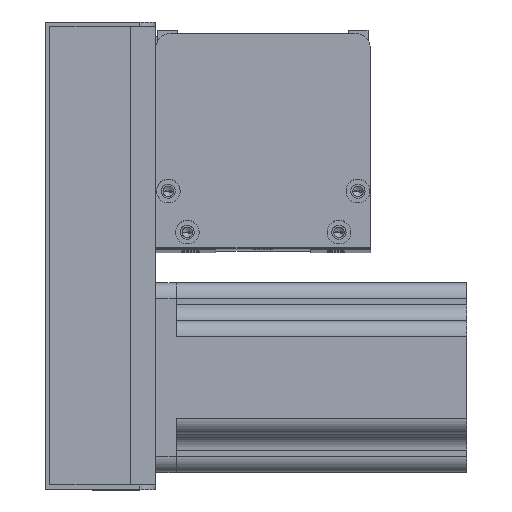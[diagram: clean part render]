
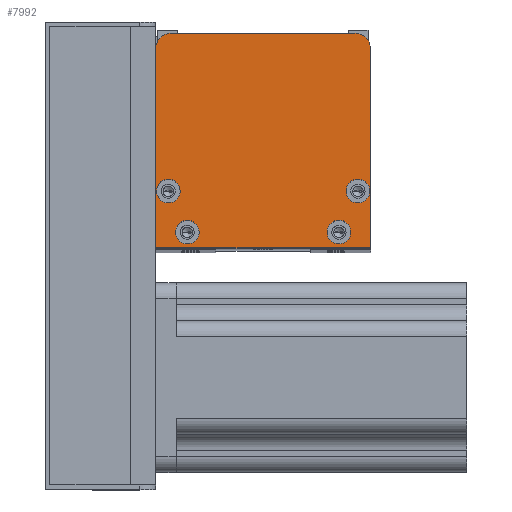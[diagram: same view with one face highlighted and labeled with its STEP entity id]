
A CAD part, top view. The second image highlights one B-rep face of the part: STEP entity #7992.
In plain terms, the highlighted planar face has unit normal (0, 0, 1) as drawn and (0, 0, -1) by its records, which use the part's own axes.
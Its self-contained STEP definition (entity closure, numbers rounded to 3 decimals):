
#486 = VERTEX_POINT ( 'NONE', #13079 ) ;
#631 = CARTESIAN_POINT ( 'NONE',  ( 68., 0., 0. ) ) ;
#656 = AXIS2_PLACEMENT_3D ( 'NONE', #26020, #2727, #13116 ) ;
#916 = CIRCLE ( 'NONE', #15659, 3.75 ) ;
#970 = CARTESIAN_POINT ( 'NONE',  ( 5., 68., 0. ) ) ;
#1076 = ORIENTED_EDGE ( 'NONE', *, *, #9248, .F. ) ;
#1168 = EDGE_CURVE ( 'NONE', #15034, #12187, #15639, .T. ) ;
#1586 = CARTESIAN_POINT ( 'NONE',  ( 67.75, 18., 0. ) ) ;
#1740 = AXIS2_PLACEMENT_3D ( 'NONE', #19308, #12850, #21339 ) ;
#2102 = ORIENTED_EDGE ( 'NONE', *, *, #14045, .F. ) ;
#2156 = DIRECTION ( 'NONE',  ( 1., 0., 0. ) ) ;
#2587 = CARTESIAN_POINT ( 'NONE',  ( 0., 0., 0. ) ) ;
#2604 = EDGE_CURVE ( 'NONE', #486, #8889, #27159, .T. ) ;
#2654 = CARTESIAN_POINT ( 'NONE',  ( 64., 18., 0. ) ) ;
#2727 = DIRECTION ( 'NONE',  ( 0., 0., -1. ) ) ;
#3039 = EDGE_CURVE ( 'NONE', #22676, #7246, #16565, .T. ) ;
#3201 = CARTESIAN_POINT ( 'NONE',  ( 0., 0., 0. ) ) ;
#3299 = FACE_BOUND ( 'NONE', #20451, .T. ) ;
#3652 = VERTEX_POINT ( 'NONE', #15122 ) ;
#3805 = ORIENTED_EDGE ( 'NONE', *, *, #1168, .F. ) ;
#4517 = DIRECTION ( 'NONE',  ( -1., 0., 0. ) ) ;
#4575 = EDGE_CURVE ( 'NONE', #8325, #486, #18827, .T. ) ;
#5411 = AXIS2_PLACEMENT_3D ( 'NONE', #14288, #25092, #12445 ) ;
#5828 = EDGE_CURVE ( 'NONE', #8651, #25038, #17901, .T. ) ;
#5835 = ORIENTED_EDGE ( 'NONE', *, *, #2604, .F. ) ;
#5959 = FACE_BOUND ( 'NONE', #19941, .T. ) ;
#6192 = AXIS2_PLACEMENT_3D ( 'NONE', #25973, #26159, #21748 ) ;
#6269 = ORIENTED_EDGE ( 'NONE', *, *, #4575, .F. ) ;
#6432 = CARTESIAN_POINT ( 'NONE',  ( 0.25, 18., 0. ) ) ;
#6517 = DIRECTION ( 'NONE',  ( -1., 0., 0. ) ) ;
#6988 = CARTESIAN_POINT ( 'NONE',  ( 6.25, 5., 0. ) ) ;
#7233 = CIRCLE ( 'NONE', #21723, 3.75 ) ;
#7246 = VERTEX_POINT ( 'NONE', #970 ) ;
#7585 = CARTESIAN_POINT ( 'NONE',  ( 4., 18., 0. ) ) ;
#7992 = ADVANCED_FACE ( 'NONE', ( #13491, #14469, #5959, #3299, #16769 ), #13402, .F. ) ;
#8078 = EDGE_CURVE ( 'NONE', #3652, #7246, #14150, .T. ) ;
#8217 = AXIS2_PLACEMENT_3D ( 'NONE', #8366, #27083, #12401 ) ;
#8325 = VERTEX_POINT ( 'NONE', #2587 ) ;
#8366 = CARTESIAN_POINT ( 'NONE',  ( 5., 63., 0. ) ) ;
#8651 = VERTEX_POINT ( 'NONE', #14248 ) ;
#8889 = VERTEX_POINT ( 'NONE', #18214 ) ;
#9077 = AXIS2_PLACEMENT_3D ( 'NONE', #3201, #24193, #22173 ) ;
#9190 = DIRECTION ( 'NONE',  ( 0., 1., 0. ) ) ;
#9248 = EDGE_CURVE ( 'NONE', #26539, #26700, #18722, .T. ) ;
#9348 = AXIS2_PLACEMENT_3D ( 'NONE', #7585, #20558, #12154 ) ;
#9356 = ORIENTED_EDGE ( 'NONE', *, *, #23915, .F. ) ;
#9791 = EDGE_CURVE ( 'NONE', #26485, #18314, #21020, .T. ) ;
#9861 = DIRECTION ( 'NONE',  ( -1., 0., 0. ) ) ;
#10106 = CARTESIAN_POINT ( 'NONE',  ( 13.75, 5., 0. ) ) ;
#10233 = ORIENTED_EDGE ( 'NONE', *, *, #25895, .F. ) ;
#10321 = EDGE_CURVE ( 'NONE', #22676, #8889, #18357, .T. ) ;
#10737 = DIRECTION ( 'NONE',  ( 0., 0., -1. ) ) ;
#10745 = ORIENTED_EDGE ( 'NONE', *, *, #14821, .F. ) ;
#11335 = CARTESIAN_POINT ( 'NONE',  ( 4., 18., 0. ) ) ;
#11798 = DIRECTION ( 'NONE',  ( 0., 0., -1. ) ) ;
#12154 = DIRECTION ( 'NONE',  ( -1., 0., 0. ) ) ;
#12187 = VERTEX_POINT ( 'NONE', #26191 ) ;
#12401 = DIRECTION ( 'NONE',  ( 1., 0., 0. ) ) ;
#12445 = DIRECTION ( 'NONE',  ( -1., 0., 0. ) ) ;
#12850 = DIRECTION ( 'NONE',  ( 0., 0., -1. ) ) ;
#13079 = CARTESIAN_POINT ( 'NONE',  ( 68., 0., 0. ) ) ;
#13116 = DIRECTION ( 'NONE',  ( -1., 0., 0. ) ) ;
#13402 = PLANE ( 'NONE',  #9077 ) ;
#13491 = FACE_BOUND ( 'NONE', #21040, .T. ) ;
#13508 = DIRECTION ( 'NONE',  ( -1., 0., 0. ) ) ;
#14045 = EDGE_CURVE ( 'NONE', #12187, #15034, #25062, .T. ) ;
#14068 = ORIENTED_EDGE ( 'NONE', *, *, #24454, .F. ) ;
#14150 = CIRCLE ( 'NONE', #8217, 5. ) ;
#14248 = CARTESIAN_POINT ( 'NONE',  ( 60.25, 18., 0. ) ) ;
#14288 = CARTESIAN_POINT ( 'NONE',  ( 58., 5., 0. ) ) ;
#14469 = FACE_BOUND ( 'NONE', #20675, .T. ) ;
#14664 = CARTESIAN_POINT ( 'NONE',  ( 0., 0., 0. ) ) ;
#14683 = CARTESIAN_POINT ( 'NONE',  ( 10., 5., 0. ) ) ;
#14821 = EDGE_CURVE ( 'NONE', #25038, #8651, #916, .T. ) ;
#15034 = VERTEX_POINT ( 'NONE', #20642 ) ;
#15122 = CARTESIAN_POINT ( 'NONE',  ( 0., 63., 0. ) ) ;
#15363 = ORIENTED_EDGE ( 'NONE', *, *, #10321, .T. ) ;
#15639 = CIRCLE ( 'NONE', #5411, 3.75 ) ;
#15659 = AXIS2_PLACEMENT_3D ( 'NONE', #18352, #11798, #9861 ) ;
#16535 = VECTOR ( 'NONE', #13508, 1000. ) ;
#16565 = LINE ( 'NONE', #25502, #16535 ) ;
#16698 = CARTESIAN_POINT ( 'NONE',  ( 63., 68., 0. ) ) ;
#16769 = FACE_OUTER_BOUND ( 'NONE', #21243, .T. ) ;
#17067 = LINE ( 'NONE', #14664, #22697 ) ;
#17361 = DIRECTION ( 'NONE',  ( 0., 0., -1. ) ) ;
#17682 = ORIENTED_EDGE ( 'NONE', *, *, #3039, .F. ) ;
#17705 = DIRECTION ( 'NONE',  ( -1., 0., 0. ) ) ;
#17901 = CIRCLE ( 'NONE', #22663, 3.75 ) ;
#18214 = CARTESIAN_POINT ( 'NONE',  ( 68., 63., 0. ) ) ;
#18314 = VERTEX_POINT ( 'NONE', #6988 ) ;
#18352 = CARTESIAN_POINT ( 'NONE',  ( 64., 18., 0. ) ) ;
#18357 = CIRCLE ( 'NONE', #6192, 5. ) ;
#18722 = CIRCLE ( 'NONE', #19408, 3.75 ) ;
#18747 = CARTESIAN_POINT ( 'NONE',  ( 68., 0., 0. ) ) ;
#18827 = LINE ( 'NONE', #18747, #22452 ) ;
#19308 = CARTESIAN_POINT ( 'NONE',  ( 58., 5., 0. ) ) ;
#19408 = AXIS2_PLACEMENT_3D ( 'NONE', #11335, #23798, #17705 ) ;
#19941 = EDGE_LOOP ( 'NONE', ( #9356, #25272 ) ) ;
#20451 = EDGE_LOOP ( 'NONE', ( #3805, #2102 ) ) ;
#20558 = DIRECTION ( 'NONE',  ( 0., 0., -1. ) ) ;
#20642 = CARTESIAN_POINT ( 'NONE',  ( 54.25, 5., 0. ) ) ;
#20647 = ORIENTED_EDGE ( 'NONE', *, *, #8078, .T. ) ;
#20675 = EDGE_LOOP ( 'NONE', ( #10233, #1076 ) ) ;
#21020 = CIRCLE ( 'NONE', #656, 3.75 ) ;
#21040 = EDGE_LOOP ( 'NONE', ( #21491, #10745 ) ) ;
#21243 = EDGE_LOOP ( 'NONE', ( #14068, #20647, #17682, #15363, #5835, #6269 ) ) ;
#21339 = DIRECTION ( 'NONE',  ( -1., 0., 0. ) ) ;
#21491 = ORIENTED_EDGE ( 'NONE', *, *, #5828, .F. ) ;
#21723 = AXIS2_PLACEMENT_3D ( 'NONE', #14683, #10737, #6517 ) ;
#21748 = DIRECTION ( 'NONE',  ( 1., 0., 0. ) ) ;
#21849 = VECTOR ( 'NONE', #9190, 1000. ) ;
#22173 = DIRECTION ( 'NONE',  ( 1., 0., 0. ) ) ;
#22452 = VECTOR ( 'NONE', #2156, 1000. ) ;
#22663 = AXIS2_PLACEMENT_3D ( 'NONE', #2654, #17361, #4517 ) ;
#22676 = VERTEX_POINT ( 'NONE', #16698 ) ;
#22697 = VECTOR ( 'NONE', #27229, 1000. ) ;
#23798 = DIRECTION ( 'NONE',  ( 0., 0., -1. ) ) ;
#23915 = EDGE_CURVE ( 'NONE', #18314, #26485, #7233, .T. ) ;
#24193 = DIRECTION ( 'NONE',  ( 0., 0., 1. ) ) ;
#24454 = EDGE_CURVE ( 'NONE', #3652, #8325, #17067, .T. ) ;
#25038 = VERTEX_POINT ( 'NONE', #1586 ) ;
#25062 = CIRCLE ( 'NONE', #1740, 3.75 ) ;
#25092 = DIRECTION ( 'NONE',  ( 0., 0., -1. ) ) ;
#25272 = ORIENTED_EDGE ( 'NONE', *, *, #9791, .F. ) ;
#25502 = CARTESIAN_POINT ( 'NONE',  ( 68., 68., 0. ) ) ;
#25748 = CIRCLE ( 'NONE', #9348, 3.75 ) ;
#25895 = EDGE_CURVE ( 'NONE', #26700, #26539, #25748, .T. ) ;
#25973 = CARTESIAN_POINT ( 'NONE',  ( 63., 63., 0. ) ) ;
#26020 = CARTESIAN_POINT ( 'NONE',  ( 10., 5., 0. ) ) ;
#26159 = DIRECTION ( 'NONE',  ( 0., 0., -1. ) ) ;
#26191 = CARTESIAN_POINT ( 'NONE',  ( 61.75, 5., 0. ) ) ;
#26485 = VERTEX_POINT ( 'NONE', #10106 ) ;
#26539 = VERTEX_POINT ( 'NONE', #26886 ) ;
#26700 = VERTEX_POINT ( 'NONE', #6432 ) ;
#26886 = CARTESIAN_POINT ( 'NONE',  ( 7.75, 18., 0. ) ) ;
#27083 = DIRECTION ( 'NONE',  ( 0., 0., -1. ) ) ;
#27159 = LINE ( 'NONE', #631, #21849 ) ;
#27229 = DIRECTION ( 'NONE',  ( 0., -1., 0. ) ) ;
